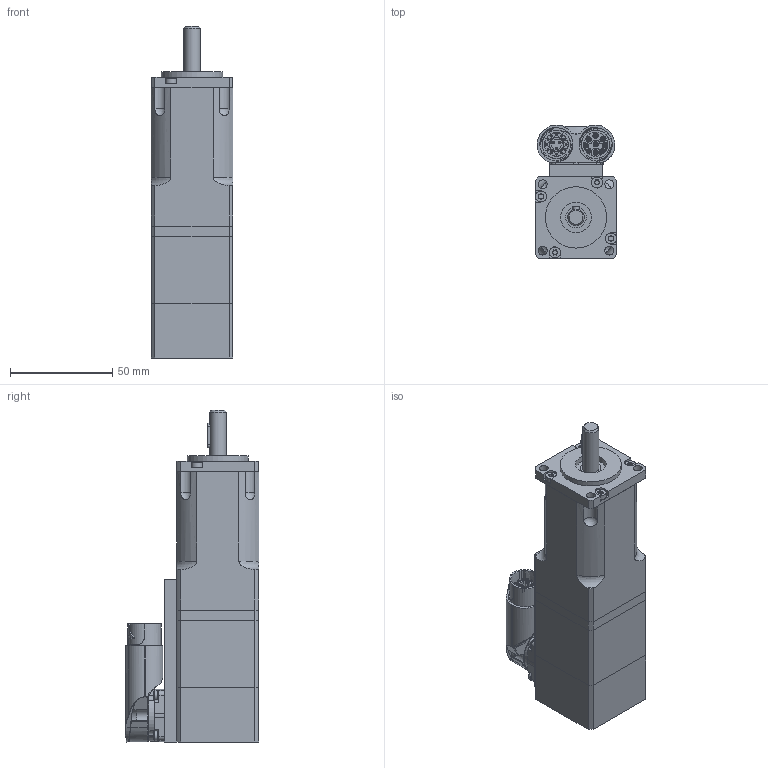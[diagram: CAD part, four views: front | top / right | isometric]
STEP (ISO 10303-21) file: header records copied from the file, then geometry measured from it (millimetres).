
FILE_DESCRIPTION(/* description */ (''),/* implementation_level */ '2;1');
FILE_NAME(/* name */ 'C:\Users\Public\Documents\Autodesk\Inventor LT 2014\Workspace\TG0\3D\tg0_definitivi\DSM5_0x_x1xD_brake\DSM5_05_x1xD.stp',/* time_stamp */ '2016-04-28T09:49:10+02:00',/* author */ ('motion'),/* organization */ (''),/* preprocessor_version */ 'ST-DEVELOPER v15.2',/* originating_system */ 'Autodesk Inventor LT ',/* authorisation */ '');
FILE_SCHEMA (('AUTOMOTIVE_DESIGN { 1 0 10303 214 3 1 1 }'));
Length unit declared in the file: millimetre
Products named in the file (1): DSM5_05_x1xD
Bounding box: 40 x 65.31 x 162.5 mm (x, y, z)
Volume: 143866.2 mm3; surface area: 69548.6 mm2
Topology: 17 solids, 17 shells, 1144 faces, 2983 edges, 1953 vertices
Faces by surface type: cylinder 454, plane 315, bspline 250, cone 57, torus 55, sphere 13
Full cylindrical faces by diameter (mm): 1 x24, 1.2 x3, 1.8 x5, 2.05 x4, 2.7 x4, 3.2 x8, 3.5 x2, 4 x2, 4.3 x4, 4.8 x6, 5 x2, 5.35 x6, 6 x2, 8 x2, 10 x1, 11.75 x1, 15 x1, 16 x1, 16.2 x2, 17.025 x1, 18.8 x1, 19.8 x1, 21.9 x1, 26 x2, 30 x1, 35 x6
Entity records: 40094 total; most frequent: CARTESIAN_POINT 12950, ORIENTED_EDGE 5674, DIRECTION 5600, EDGE_CURVE 2837, AXIS2_PLACEMENT_3D 2372, VERTEX_POINT 1939, EDGE_LOOP 1390, CIRCLE 1357
